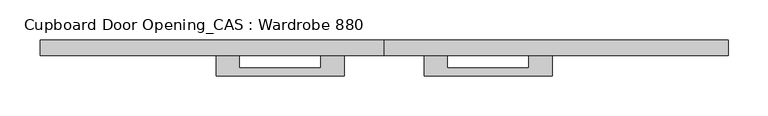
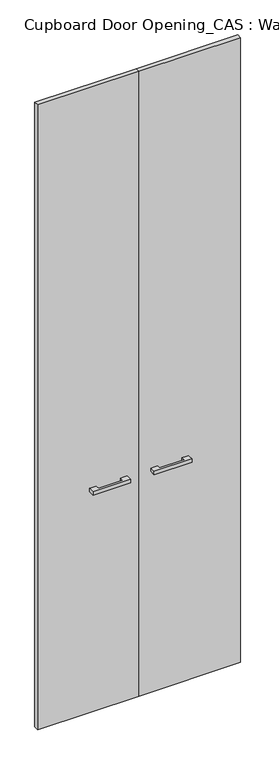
"""IFC4 building model written with IfcOpenShell, lengths in millimetres: furniture geometry, Cupboard Door Opening_CAS : Wardrobe 880."""

import ifcopenshell
import ifcopenshell.guid

model = None  # the IFC model being written
_history = None  # IfcOwnerHistory: only IFC2X3 demands one
_inside = {}  # id of a spatial element -> (the spatial element, [elements in it])
_under = {}  # id of a project, library or spatial element -> (it, [spatial elements below it])
_declared = {}  # id of a project -> (the project, [libraries it declares])
_typed = {}  # id of a type object -> (the type object, [elements of that type])
_made_of = {}  # id of a material, layer set ... -> (it, [elements and type objects made of it])


def new_model(schema):
    """Start an empty IFC model of exactly this schema.

    Asked for "IFC4X3", IfcOpenShell would pick the latest addendum, in which some entities
    have other attributes; the version numbers below select the first issue.
    IFC2X3 requires an IfcOwnerHistory on every rooted entity: one is made here for all.
    """
    global model, _history
    if schema == "IFC4X3":
        model = ifcopenshell.file(schema_version=(4, 3, 0, 0))
    else:
        model = ifcopenshell.file(schema=schema)
    _inside.clear()
    _under.clear()
    _declared.clear()
    _typed.clear()
    _made_of.clear()
    _history = None
    if model.schema == "IFC2X3":
        org = make("IfcOrganization", Name="unknown")
        user = make(
            "IfcPersonAndOrganization",
            ThePerson=make("IfcPerson", FamilyName="unknown"),
            TheOrganization=org,
        )
        app = make(
            "IfcApplication",
            ApplicationDeveloper=org,
            Version="unknown",
            ApplicationFullName="unknown",
            ApplicationIdentifier="unknown",
        )
        _history = make(
            "IfcOwnerHistory",
            OwningUser=user,
            OwningApplication=app,
            ChangeAction="ADDED",
            CreationDate=0,
        )
    return model


def make(cls, **values):
    """One entity of the class cls with the attributes given. An attribute that is None is left unset."""
    return model.create_entity(
        cls, **{name: value for name, value in values.items() if value is not None}
    )


def rooted(cls, **values):
    """An entity with a GlobalId (a new one), such as an element, a storey or a relation."""
    return make(cls, GlobalId=ifcopenshell.guid.new(), OwnerHistory=_history, **values)


def si_unit(unit_type, name, prefix=None):
    """IfcSIUnit, for example si_unit("LENGTHUNIT", "METRE", prefix="MILLI")."""
    return make("IfcSIUnit", UnitType=unit_type, Prefix=prefix, Name=name)


def assignment(units):
    """IfcUnitAssignment: the units of a project."""
    return None if units is None else make("IfcUnitAssignment", Units=units)


def point(xyz):
    """IfcCartesianPoint."""
    return None if xyz is None else make("IfcCartesianPoint", Coordinates=xyz)


def direction(xyz):
    """IfcDirection."""
    return None if xyz is None else make("IfcDirection", DirectionRatios=xyz)


def frame(location, z_axis=None, x_axis=None):
    """IfcAxis2Placement3D, a coordinate frame: its origin and axes. An axis left out is left unset."""
    return make(
        "IfcAxis2Placement3D",
        Location=point(location),
        Axis=direction(z_axis),
        RefDirection=direction(x_axis),
    )


def origin():
    """The frame at (0, 0, 0) with its axes left unset."""
    return frame((0.0, 0.0, 0.0))


def origin_with_axes():
    """The frame at (0, 0, 0) with the z axis (0, 0, 1) and the x axis (1, 0, 0) written out."""
    return frame((0.0, 0.0, 0.0), z_axis=(0.0, 0.0, 1.0), x_axis=(1.0, 0.0, 0.0))


def place(relative_to, where):
    """IfcLocalPlacement: puts the frame where relative to a parent placement (None: the world)."""
    return make(
        "IfcLocalPlacement", PlacementRelTo=relative_to, RelativePlacement=where
    )


def context(
    kind, dimensions, precision=None, world=None, true_north=None, identifier=None
):
    """IfcGeometricRepresentationContext, for example the 3D "Model" context."""
    return make(
        "IfcGeometricRepresentationContext",
        ContextIdentifier=identifier,
        ContextType=kind,
        CoordinateSpaceDimension=dimensions,
        Precision=precision,
        WorldCoordinateSystem=world,
        TrueNorth=true_north,
    )


def project(units=None, contexts=None):
    """IfcProject with its units and contexts."""
    return rooted(
        "IfcProject",
        Name="project",
        RepresentationContexts=contexts,
        UnitsInContext=assignment(units),
    )


def spatial(cls, under=None, at=None, **own):
    """A site, building, storey or space (cls), placed at a placement, below another one or the project."""
    s = rooted(cls, ObjectPlacement=at, **own)
    if under is not None:
        _under.setdefault(under.id(), (under, []))[1].append(s)
    return s


def polyline(points):
    """IfcPolyline through the points."""
    return make("IfcPolyline", Points=[point(p) for p in points])


def outline(outer, holes=None, kind="AREA"):
    """IfcArbitraryClosedProfileDef: a profile drawn as a closed curve; with holes, ...WithVoids."""
    if holes is None:
        return make("IfcArbitraryClosedProfileDef", ProfileType=kind, OuterCurve=outer)
    return make(
        "IfcArbitraryProfileDefWithVoids",
        ProfileType=kind,
        OuterCurve=outer,
        InnerCurves=holes,
    )


def extrude(swept, where, along, depth):
    """IfcExtrudedAreaSolid: the profile swept, set in the frame where, extruded along a direction by depth."""
    return make(
        "IfcExtrudedAreaSolid",
        SweptArea=swept,
        Position=where,
        ExtrudedDirection=direction(along),
        Depth=depth,
    )


def shape(context_of_items, identifier, shape_type, items):
    """IfcShapeRepresentation: the items that make up one representation, for example the "Body"."""
    return make(
        "IfcShapeRepresentation",
        ContextOfItems=context_of_items,
        RepresentationIdentifier=identifier,
        RepresentationType=shape_type,
        Items=items,
    )


def source(mapping_origin, context_of_items, identifier, shape_type, items):
    """IfcRepresentationMap: a shape defined once, which mapped items show again and again."""
    return make(
        "IfcRepresentationMap",
        MappingOrigin=mapping_origin,
        MappedRepresentation=shape(context_of_items, identifier, shape_type, items),
    )


def transform(
    local_origin,
    x_axis=None,
    y_axis=None,
    z_axis=None,
    scale=None,
    scale2=None,
    scale3=None,
    uniform=True,
):
    """IfcCartesianTransformationOperator3D, or its non-uniform kind. x_axis, y_axis, z_axis: its Axis1, 2, 3."""
    if uniform:
        return make(
            "IfcCartesianTransformationOperator3D",
            Axis1=direction(x_axis),
            Axis2=direction(y_axis),
            LocalOrigin=point(local_origin),
            Scale=scale,
            Axis3=direction(z_axis),
        )
    return make(
        "IfcCartesianTransformationOperator3DnonUniform",
        Axis1=direction(x_axis),
        Axis2=direction(y_axis),
        LocalOrigin=point(local_origin),
        Scale=scale,
        Axis3=direction(z_axis),
        Scale2=scale2,
        Scale3=scale3,
    )


def mapped(mapping_source, mapping_target):
    """IfcMappedItem: shows the shape of a source again, moved by a transform."""
    return make(
        "IfcMappedItem", MappingSource=mapping_source, MappingTarget=mapping_target
    )


def made_of(thing, what):
    """Note that an element or type object is made of a material, layer set ...; save() writes the relation."""
    if what is not None:
        _made_of.setdefault(what.id(), (what, []))[1].append(thing)
    return thing


def element(
    cls,
    number,
    at=None,
    inside=None,
    cuts=None,
    type_object=None,
    material=None,
    context=None,
    identifier="Body",
    shape_type=None,
    held_by="IfcProductDefinitionShape",
    body=None,
    shapes=None,
    **own,
):
    """One element of the class cls, such as IfcWall. Its Tag is "e" and its number.

    at: its placement. inside: the storey or other place that contains it. cuts: it is an
    opening in that element (IfcRelVoidsElement). A single representation is given by context,
    identifier, shape_type and body (its items); several are given by shapes. held_by: the class
    of the entity that holds the representations. save() writes the other relations.
    """
    e = rooted(cls, Tag="e%d" % number, ObjectPlacement=at, **own)
    if body is not None:
        shapes = [shape(context, identifier, shape_type, body)]
    if shapes is not None:
        e.Representation = make(held_by, Representations=shapes)
    if inside is not None:
        _inside.setdefault(inside.id(), (inside, []))[1].append(e)
    if cuts is not None:
        rooted(
            "IfcRelVoidsElement", RelatingBuildingElement=cuts, RelatedOpeningElement=e
        )
    if type_object is not None:
        _typed.setdefault(type_object.id(), (type_object, []))[1].append(e)
    return made_of(e, material)


def aggregate(whole, parts):
    """IfcRelAggregates: a whole, such as a stair, and the parts it consists of."""
    return rooted("IfcRelAggregates", RelatingObject=whole, RelatedObjects=parts)


def save(model, path):
    """Write the relations noted so far, then the file.

    IfcRelAggregates (storeys below a building ...), IfcRelContainedInSpatialStructure (elements
    in a storey), IfcRelDefinesByType, IfcRelAssociatesMaterial and IfcRelDeclares: one each for
    every whole, place, type object, material and project.
    """
    for whole, parts in _under.values():
        aggregate(whole, parts)
    for where, things in _inside.values():
        rooted(
            "IfcRelContainedInSpatialStructure",
            RelatedElements=things,
            RelatingStructure=where,
        )
    for kind, things in _typed.values():
        rooted("IfcRelDefinesByType", RelatedObjects=things, RelatingType=kind)
    for what, things in _made_of.values():
        rooted("IfcRelAssociatesMaterial", RelatedObjects=things, RelatingMaterial=what)
    for by, libraries in _declared.values():
        rooted("IfcRelDeclares", RelatingContext=by, RelatedDefinitions=libraries)
    model.write(path)


def cupboard_door_opening_cas_wardrobe_880_79602b9b(model_context):
    return source(origin(), model_context, "Body", "SweptSolid", [
        extrude(outline(polyline([(175.0, -84.0), (175.0, -59.0), (204.0, -59.0), (204.0, -74.0), (306.0, -74.0), (306.0, -59.0), (335.0, -59.0), (335.0, -84.0), (175.0, -84.0)])), frame((0.0, 0.0, 987.5), z_axis=(0.0, 0.0, 1.0), x_axis=(1.0, 0.0, 0.0)), (0.0, 0.0, 1.0), 15.0),
        extrude(outline(polyline([(555.0, -59.0), (125.0, -59.0), (125.0, -39.0), (555.0, -39.0), (555.0, -59.0)])), origin_with_axes(), (0.0, 0.0, 1.0), 2795.0),
        extrude(outline(polyline([(75.0, -84.0), (-85.0, -84.0), (-85.0, -59.0), (-56.0, -59.0), (-56.0, -74.0), (46.0, -74.0), (46.0, -59.0), (75.0, -59.0), (75.0, -84.0)])), frame((0.0, 0.0, 987.5), z_axis=(0.0, 0.0, 1.0), x_axis=(1.0, 0.0, 0.0)), (0.0, 0.0, 1.0), 15.0),
        extrude(outline(polyline([(-305.0, -59.0), (-305.0, -39.0), (125.0, -39.0), (125.0, -59.0), (-305.0, -59.0)])), origin_with_axes(), (0.0, 0.0, 1.0), 2795.0),
    ])


if __name__ == "__main__":
    model = new_model("IFC4")
    model_context = context("Model", 3, world=origin())
    ifc_project = project(units=[si_unit("LENGTHUNIT", "METRE", prefix="MILLI")], contexts=[model_context])
    site = spatial("IfcSite", under=ifc_project)
    building = spatial("IfcBuilding", under=site)
    placement = place(None, origin())
    cupboard_door_opening_cas_wardrobe_880_shape = cupboard_door_opening_cas_wardrobe_880_79602b9b(model_context)
    element("IfcFurniture", 1, ObjectType="Cupboard Door Opening_CAS : Wardrobe 880", at=placement, inside=building, context=model_context, shape_type="MappedRepresentation", body=[
        mapped(cupboard_door_opening_cas_wardrobe_880_shape, transform((0.0, 0.0, 0.0), x_axis=(1.0, 0.0, 0.0), y_axis=(0.0, 1.0, 0.0), z_axis=(0.0, 0.0, 1.0))),
    ])
    save(model, "model.ifc")
